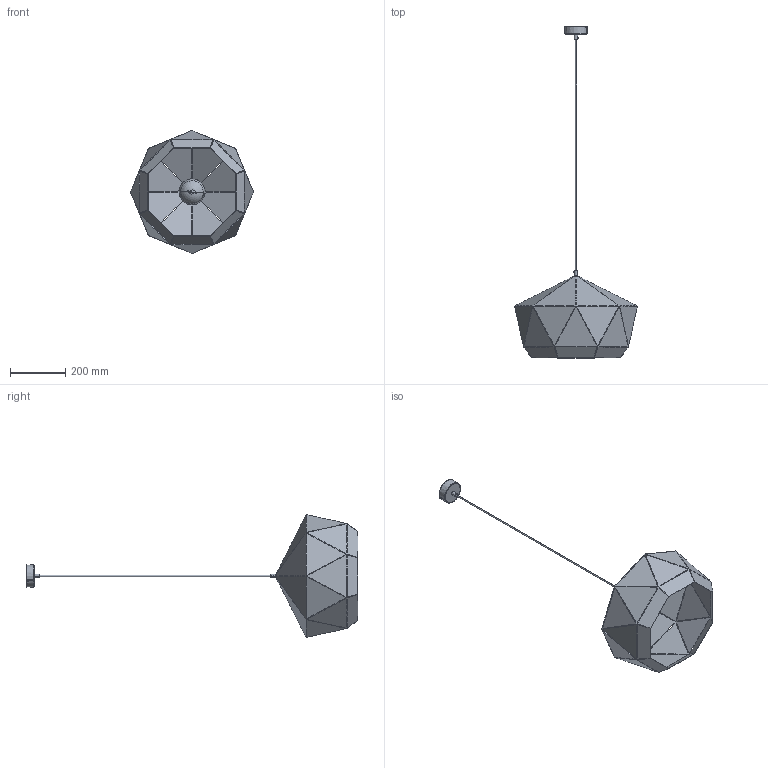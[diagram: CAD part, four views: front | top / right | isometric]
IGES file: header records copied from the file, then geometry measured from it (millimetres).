
Start section: SolidWorks IGES file using analytic representation for surfaces
Global section: file name: E:\3D lampy\Diamond\Diamond_6616\Diamond_6616.IGS; native system: SolidWorks 2016; preprocessor: SolidWorks 2016; author: Asia; date: 161208.150220; units: millimetre
Bounding box: 444.23 x 1200 x 444.23 mm (x, y, z)
Surface area: 922109.1 mm2 (no closed solid volume)
Topology: 0 solids, 0 shells, 1214 faces, 22600 edges, 22595 vertices
Faces by surface type: revolution 672, bspline 542
